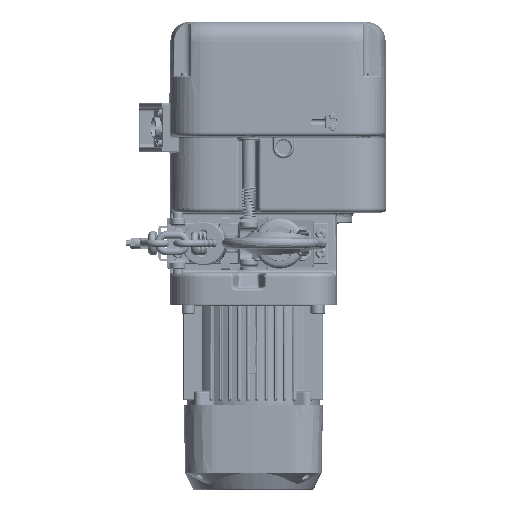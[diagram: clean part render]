
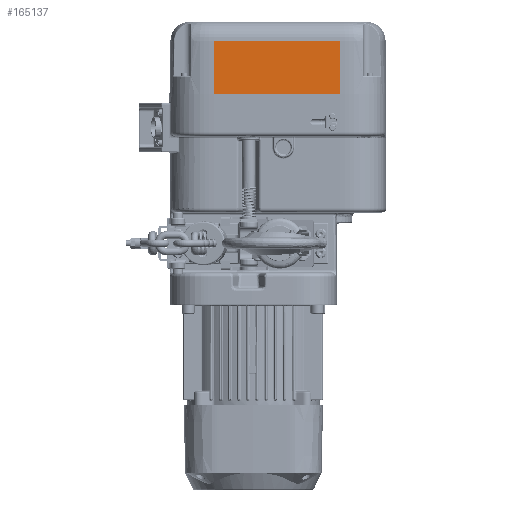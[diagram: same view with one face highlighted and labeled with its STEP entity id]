
A CAD part, front view. The second image highlights one B-rep face of the part: STEP entity #165137.
In plain terms, the highlighted planar face has unit normal (-0.013, -1, 0.018) as drawn and (0, -1, 0.017) by its records, which use the part's own axes.
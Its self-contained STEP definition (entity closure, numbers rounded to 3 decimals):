
#3352 = ORIENTED_EDGE ( 'NONE', *, *, #91393, .F. ) ;
#3765 = ORIENTED_EDGE ( 'NONE', *, *, #96678, .F. ) ;
#5515 = PLANE ( 'NONE',  #184416 ) ;
#13189 = VERTEX_POINT ( 'NONE', #62741 ) ;
#13723 = LINE ( 'NONE', #73072, #23744 ) ;
#23744 = VECTOR ( 'NONE', #58408, 1000. ) ;
#29844 = ORIENTED_EDGE ( 'NONE', *, *, #173745, .T. ) ;
#31977 = VERTEX_POINT ( 'NONE', #32495 ) ;
#32146 = CARTESIAN_POINT ( 'NONE',  ( 0., -119.2, 74.454 ) ) ;
#32495 = CARTESIAN_POINT ( 'NONE',  ( -87.226, -120.5, 0. ) ) ;
#41099 = VECTOR ( 'NONE', #189187, 1000. ) ;
#47381 = FACE_OUTER_BOUND ( 'NONE', #134864, .T. ) ;
#48782 = ORIENTED_EDGE ( 'NONE', *, *, #78993, .T. ) ;
#50602 = LINE ( 'NONE', #184894, #132934 ) ;
#58408 = DIRECTION ( 'NONE',  ( 0., -0.017, -1. ) ) ;
#62741 = CARTESIAN_POINT ( 'NONE',  ( 87.226, -119.2, 74.454 ) ) ;
#73072 = CARTESIAN_POINT ( 'NONE',  ( -87.226, -120.5, 0. ) ) ;
#74297 = CARTESIAN_POINT ( 'NONE',  ( 87.226, -120.5, 0. ) ) ;
#78993 = EDGE_CURVE ( 'NONE', #162546, #31977, #13723, .T. ) ;
#91393 = EDGE_CURVE ( 'NONE', #116568, #31977, #50602, .T. ) ;
#96678 = EDGE_CURVE ( 'NONE', #13189, #116568, #162798, .T. ) ;
#110641 = DIRECTION ( 'NONE',  ( 0., -1., 0.017 ) ) ;
#116568 = VERTEX_POINT ( 'NONE', #191524 ) ;
#120703 = LINE ( 'NONE', #32146, #147273 ) ;
#132934 = VECTOR ( 'NONE', #169347, 1000. ) ;
#134864 = EDGE_LOOP ( 'NONE', ( #3765, #29844, #48782, #3352 ) ) ;
#135933 = CARTESIAN_POINT ( 'NONE',  ( 0., -120.5, 0. ) ) ;
#147273 = VECTOR ( 'NONE', #150805, 1000. ) ;
#150805 = DIRECTION ( 'NONE',  ( -1., 0., 0. ) ) ;
#162546 = VERTEX_POINT ( 'NONE', #186729 ) ;
#162798 = LINE ( 'NONE', #74297, #41099 ) ;
#165137 = ADVANCED_FACE ( 'NONE', ( #47381 ), #5515, .T. ) ;
#167043 = DIRECTION ( 'NONE',  ( 0., -0.017, -1. ) ) ;
#169347 = DIRECTION ( 'NONE',  ( -1., 0., 0. ) ) ;
#173745 = EDGE_CURVE ( 'NONE', #13189, #162546, #120703, .T. ) ;
#184416 = AXIS2_PLACEMENT_3D ( 'NONE', #135933, #110641, #167043 ) ;
#184894 = CARTESIAN_POINT ( 'NONE',  ( 0., -120.5, 0. ) ) ;
#186729 = CARTESIAN_POINT ( 'NONE',  ( -87.226, -119.2, 74.454 ) ) ;
#189187 = DIRECTION ( 'NONE',  ( 0., -0.017, -1. ) ) ;
#191524 = CARTESIAN_POINT ( 'NONE',  ( 87.226, -120.5, 0. ) ) ;
